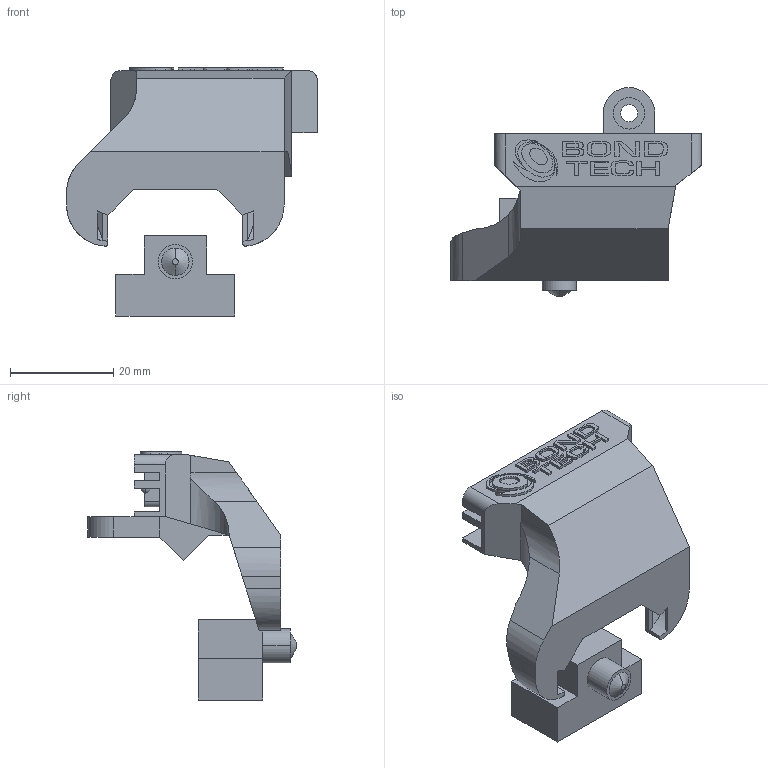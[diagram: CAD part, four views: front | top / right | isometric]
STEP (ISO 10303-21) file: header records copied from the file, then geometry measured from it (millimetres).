
FILE_DESCRIPTION (( 'STEP AP203' ), '1' );
FILE_NAME ('LGX - 4010 Fan shroud.STEP', '2021-03-11T07:37:36', ( '' ), ( '' ), 'SwSTEP 2.0', 'SolidWorks 2020', '' );
FILE_SCHEMA (( 'CONFIG_CONTROL_DESIGN' ));
Length unit declared in the file: millimetre
Products named in the file (1): LGX - 4010 Fan shroud
Bounding box: 48.55 x 40.4 x 48 mm (x, y, z)
Volume: 10122.4 mm3; surface area: 10478.1 mm2
Topology: 2 solids, 2 shells, 394 faces, 1072 edges, 695 vertices
Faces by surface type: plane 213, bspline 115, cylinder 57, sphere 4, torus 3, cone 2
Entity records: 13268 total; most frequent: CARTESIAN_POINT 4196, ORIENTED_EDGE 2122, DIRECTION 1435, EDGE_CURVE 1061, LINE 691, VERTEX_POINT 691, VECTOR 691, EDGE_LOOP 422
